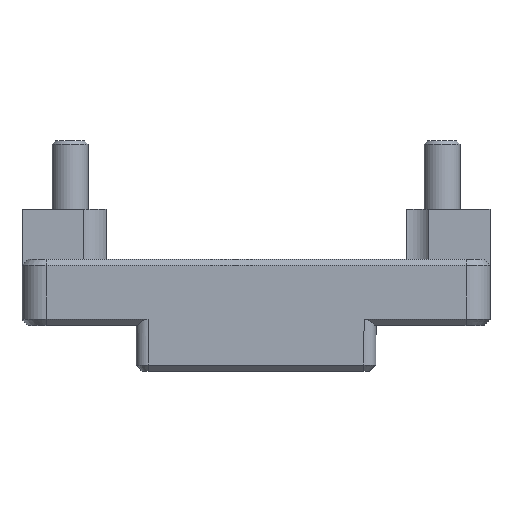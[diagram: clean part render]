
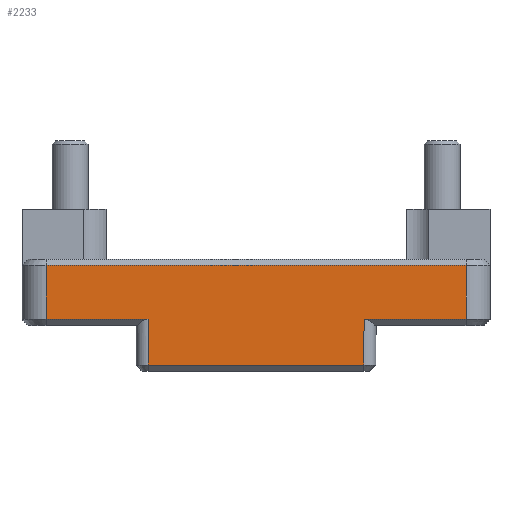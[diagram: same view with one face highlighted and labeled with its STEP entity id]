
A CAD part, top view. The second image highlights one B-rep face of the part: STEP entity #2233.
In plain terms, the highlighted planar face has unit normal (0, 0, 1).
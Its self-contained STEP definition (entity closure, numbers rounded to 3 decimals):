
#150=LINE('',#3207,#317);
#214=LINE('',#3800,#381);
#230=LINE('',#3859,#397);
#250=LINE('',#3916,#417);
#264=LINE('',#3951,#431);
#265=LINE('',#3953,#432);
#266=LINE('',#3954,#433);
#267=LINE('',#3955,#434);
#317=VECTOR('',#2636,10.);
#381=VECTOR('',#2758,10.);
#397=VECTOR('',#2816,10.);
#417=VECTOR('',#2876,10.);
#431=VECTOR('',#2914,10.);
#432=VECTOR('',#2917,10.);
#433=VECTOR('',#2918,10.);
#434=VECTOR('',#2919,10.);
#584=FACE_OUTER_BOUND('',#713,.T.);
#713=EDGE_LOOP('',(#1853,#1854,#1855,#1856,#1857,#1858,#1859,#1860));
#883=VERTEX_POINT('',#3199);
#885=VERTEX_POINT('',#3205);
#964=VERTEX_POINT('',#3793);
#967=VERTEX_POINT('',#3798);
#987=VERTEX_POINT('',#3851);
#989=VERTEX_POINT('',#3857);
#1005=VERTEX_POINT('',#3913);
#1006=VERTEX_POINT('',#3915);
#1114=EDGE_CURVE('',#885,#883,#150,.T.);
#1233=EDGE_CURVE('',#967,#964,#214,.T.);
#1262=EDGE_CURVE('',#989,#987,#230,.T.);
#1291=EDGE_CURVE('',#1005,#1006,#250,.T.);
#1310=EDGE_CURVE('',#1006,#885,#264,.T.);
#1311=EDGE_CURVE('',#987,#1005,#265,.T.);
#1312=EDGE_CURVE('',#964,#989,#266,.T.);
#1313=EDGE_CURVE('',#883,#967,#267,.T.);
#1853=ORIENTED_EDGE('',*,*,#1114,.F.);
#1854=ORIENTED_EDGE('',*,*,#1310,.F.);
#1855=ORIENTED_EDGE('',*,*,#1291,.F.);
#1856=ORIENTED_EDGE('',*,*,#1311,.F.);
#1857=ORIENTED_EDGE('',*,*,#1262,.F.);
#1858=ORIENTED_EDGE('',*,*,#1312,.F.);
#1859=ORIENTED_EDGE('',*,*,#1233,.F.);
#1860=ORIENTED_EDGE('',*,*,#1313,.F.);
#2006=PLANE('',#2425);
#2233=ADVANCED_FACE('',(#584),#2006,.T.);
#2425=AXIS2_PLACEMENT_3D('',#3952,#2915,#2916);
#2636=DIRECTION('',(1.,0.,0.));
#2758=DIRECTION('',(-1.,0.,0.));
#2816=DIRECTION('',(-1.,0.,0.));
#2876=DIRECTION('',(-1.,0.,0.));
#2914=DIRECTION('',(0.,1.,0.));
#2915=DIRECTION('center_axis',(0.,0.,1.));
#2916=DIRECTION('ref_axis',(1.,0.,0.));
#2917=DIRECTION('',(0.,1.,0.));
#2918=DIRECTION('',(0.,-1.,0.));
#2919=DIRECTION('',(0.,-1.,0.));
#3199=CARTESIAN_POINT('',(17.5,-0.5,11.4));
#3205=CARTESIAN_POINT('',(-17.5,-0.5,11.4));
#3207=CARTESIAN_POINT('',(6.25,-0.5,11.4));
#3793=CARTESIAN_POINT('',(9.,-5.,11.4));
#3798=CARTESIAN_POINT('',(17.5,-5.,11.4));
#3800=CARTESIAN_POINT('',(5.,-5.,11.4));
#3851=CARTESIAN_POINT('',(-9.,-8.8,11.4));
#3857=CARTESIAN_POINT('',(9.,-8.8,11.4));
#3859=CARTESIAN_POINT('',(-5.,-8.8,11.4));
#3913=CARTESIAN_POINT('',(-9.,-5.,11.4));
#3915=CARTESIAN_POINT('',(-17.5,-5.,11.4));
#3916=CARTESIAN_POINT('',(-9.75,-5.,11.4));
#3951=CARTESIAN_POINT('',(-17.5,0.853,11.4));
#3952=CARTESIAN_POINT('Origin',(0.,-2.495,11.4));
#3953=CARTESIAN_POINT('',(-9.,-3.997,11.4));
#3954=CARTESIAN_POINT('',(9.,-5.897,11.4));
#3955=CARTESIAN_POINT('',(17.5,-3.997,11.4));
